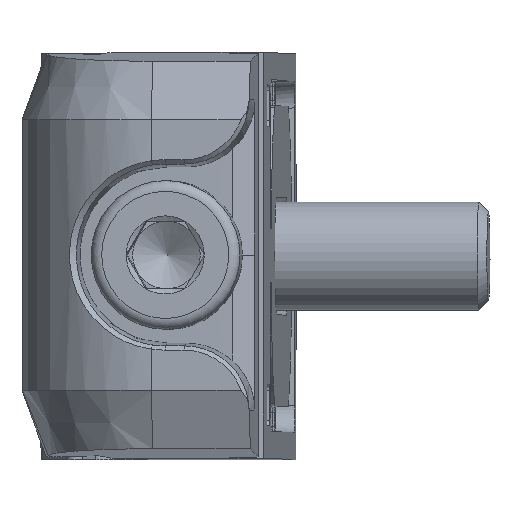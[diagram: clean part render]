
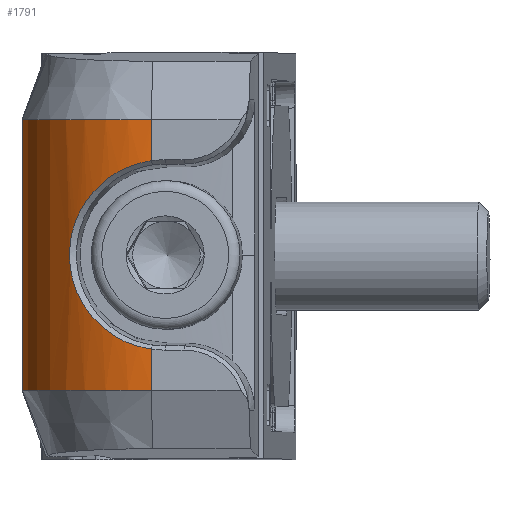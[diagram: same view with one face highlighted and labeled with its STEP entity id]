
A CAD part, top view. The second image highlights one B-rep face of the part: STEP entity #1791.
In plain terms, the highlighted cylindrical face has radius 5 mm (diameter 10 mm), a partial arc.
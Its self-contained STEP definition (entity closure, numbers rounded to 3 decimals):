
#538=B_SPLINE_CURVE_WITH_KNOTS('',3,(#22591,#22592,#22593,#22594,#22595,
#22596,#22597,#22598,#22599,#22600),.UNSPECIFIED.,.F.,.F.,(4,2,2,2,4),(0.,
0.25,0.5,0.75,1.),.UNSPECIFIED.);
#797=CYLINDRICAL_SURFACE('',#13173,5.);
#1173=CIRCLE('',#13171,5.);
#1174=CIRCLE('',#13172,5.);
#1791=ADVANCED_FACE('',(#2751),#797,.T.);
#2751=FACE_OUTER_BOUND('',#3452,.T.);
#3452=EDGE_LOOP('',(#6464,#6465,#6466,#6467,#6468,#6469));
#6464=ORIENTED_EDGE('',*,*,#9861,.F.);
#6465=ORIENTED_EDGE('',*,*,#9862,.T.);
#6466=ORIENTED_EDGE('',*,*,#9863,.F.);
#6467=ORIENTED_EDGE('',*,*,#9864,.T.);
#6468=ORIENTED_EDGE('',*,*,#9865,.F.);
#6469=ORIENTED_EDGE('',*,*,#9866,.T.);
#8195=VERTEX_POINT('',#22589);
#8196=VERTEX_POINT('',#22590);
#8197=VERTEX_POINT('',#22601);
#8198=VERTEX_POINT('',#22603);
#8199=VERTEX_POINT('',#22605);
#8200=VERTEX_POINT('',#22607);
#9861=EDGE_CURVE('',#8195,#8196,#10998,.T.);
#9862=EDGE_CURVE('',#8195,#8197,#538,.T.);
#9863=EDGE_CURVE('',#8198,#8197,#10999,.T.);
#9864=EDGE_CURVE('',#8198,#8199,#1173,.T.);
#9865=EDGE_CURVE('',#8200,#8199,#11000,.T.);
#9866=EDGE_CURVE('',#8200,#8196,#1174,.T.);
#10998=LINE('',#22588,#11938);
#10999=LINE('',#22602,#11939);
#11000=LINE('',#22606,#11940);
#11938=VECTOR('',#16048,1.);
#11939=VECTOR('',#16049,1.);
#11940=VECTOR('',#16052,1.);
#13171=AXIS2_PLACEMENT_3D('',#22604,#16050,#16051);
#13172=AXIS2_PLACEMENT_3D('',#22608,#16053,#16054);
#13173=AXIS2_PLACEMENT_3D('',#22609,#16055,#16056);
#16048=DIRECTION('',(0.,-1.,0.));
#16049=DIRECTION('',(0.,-1.,0.));
#16050=DIRECTION('',(0.,-1.,0.));
#16051=DIRECTION('',(0.035,0.,-0.999));
#16052=DIRECTION('',(0.,1.,0.));
#16053=DIRECTION('',(0.,1.,0.));
#16054=DIRECTION('',(-0.035,0.,0.999));
#16055=DIRECTION('',(0.,1.,0.));
#16056=DIRECTION('',(-0.035,0.,0.999));
#22588=CARTESIAN_POINT('',(64.454,-85.616,59.663));
#22589=CARTESIAN_POINT('',(64.454,-81.597,59.663));
#22590=CARTESIAN_POINT('',(64.454,-83.116,59.663));
#22591=CARTESIAN_POINT('',(64.454,-81.597,59.663));
#22592=CARTESIAN_POINT('',(63.581,-81.473,59.632));
#22593=CARTESIAN_POINT('',(62.863,-81.105,59.393));
#22594=CARTESIAN_POINT('',(61.663,-79.706,58.749));
#22595=CARTESIAN_POINT('',(61.419,-78.939,58.5));
#22596=CARTESIAN_POINT('',(61.421,-77.28,58.501));
#22597=CARTESIAN_POINT('',(61.693,-76.485,58.765));
#22598=CARTESIAN_POINT('',(62.841,-75.154,59.381));
#22599=CARTESIAN_POINT('',(63.583,-74.759,59.632));
#22600=CARTESIAN_POINT('',(64.454,-74.636,59.663));
#22601=CARTESIAN_POINT('',(64.454,-74.636,59.663));
#22602=CARTESIAN_POINT('',(64.454,-85.616,59.663));
#22603=CARTESIAN_POINT('',(64.454,-73.116,59.663));
#22604=CARTESIAN_POINT('',(64.629,-73.116,54.666));
#22605=CARTESIAN_POINT('',(59.677,-73.116,55.362));
#22606=CARTESIAN_POINT('',(59.677,-70.616,55.362));
#22607=CARTESIAN_POINT('',(59.677,-83.116,55.362));
#22608=CARTESIAN_POINT('',(64.629,-83.116,54.666));
#22609=CARTESIAN_POINT('',(64.629,-85.616,54.666));
